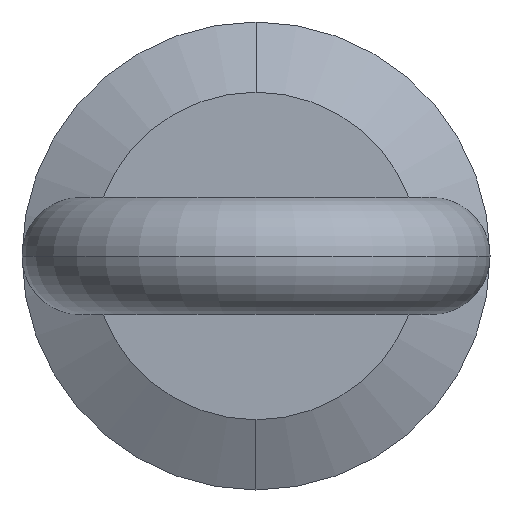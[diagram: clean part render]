
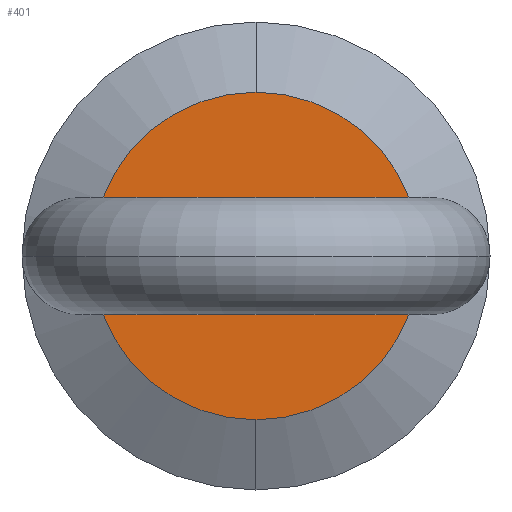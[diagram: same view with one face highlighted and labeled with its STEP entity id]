
A CAD part, front view. The second image highlights one B-rep face of the part: STEP entity #401.
In plain terms, the highlighted planar face has unit normal (0, -1, 0).
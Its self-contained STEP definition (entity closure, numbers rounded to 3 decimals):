
#259 = VERTEX_POINT( '', #608 );
#283 = EDGE_CURVE( '', #285, #259, #634, .T. );
#285 = VERTEX_POINT( '', #636 );
#319 = EDGE_CURVE( '', #457, #449, #671, .T. );
#323 = VERTEX_POINT( '', #675 );
#325 = EDGE_CURVE( '', #259, #285, #677, .T. );
#381 = EDGE_CURVE( '', #323, #455, #742, .T. );
#401 = ADVANCED_FACE( '', ( #764, #765, #766 ), #767, .T. );
#427 = EDGE_CURVE( '', #449, #457, #797, .T. );
#449 = VERTEX_POINT( '', #819 );
#455 = VERTEX_POINT( '', #825 );
#457 = VERTEX_POINT( '', #827 );
#499 = EDGE_CURVE( '', #455, #323, #873, .T. );
#608 = CARTESIAN_POINT( '', ( -3.605, -6., 2.5 ) );
#634 = CIRCLE( '', #1022, 2.5 );
#636 = CARTESIAN_POINT( '', ( -3.605, -6., -2.5 ) );
#671 = CIRCLE( '', #1075, 7. );
#675 = CARTESIAN_POINT( '', ( 3.605, -6., -2.5 ) );
#677 = CIRCLE( '', #1084, 2.5 );
#742 = CIRCLE( '', #1165, 2.5 );
#764 = FACE_BOUND( '', #1191, .T. );
#765 = FACE_OUTER_BOUND( '', #1192, .T. );
#766 = FACE_BOUND( '', #1193, .T. );
#767 = PLANE( '', #1194 );
#797 = CIRCLE( '', #1231, 7. );
#819 = CARTESIAN_POINT( '', ( 0., -6., -7. ) );
#825 = CARTESIAN_POINT( '', ( 3.605, -6., 2.5 ) );
#827 = CARTESIAN_POINT( '', ( 0., -6., 7. ) );
#873 = CIRCLE( '', #1330, 2.5 );
#1022 = AXIS2_PLACEMENT_3D( '', #1481, #1482, #1483 );
#1075 = AXIS2_PLACEMENT_3D( '', #1522, #1523, #1524 );
#1084 = AXIS2_PLACEMENT_3D( '', #1526, #1527, #1528 );
#1165 = AXIS2_PLACEMENT_3D( '', #1647, #1648, #1649 );
#1191 = EDGE_LOOP( '', ( #1681, #1682 ) );
#1192 = EDGE_LOOP( '', ( #1683, #1684 ) );
#1193 = EDGE_LOOP( '', ( #1685, #1686 ) );
#1194 = AXIS2_PLACEMENT_3D( '', #1687, #1688, #1689 );
#1231 = AXIS2_PLACEMENT_3D( '', #1731, #1732, #1733 );
#1330 = AXIS2_PLACEMENT_3D( '', #1814, #1815, #1816 );
#1481 = CARTESIAN_POINT( '', ( -3.605, -6., 0. ) );
#1482 = DIRECTION( '', ( 0., -1., 0. ) );
#1483 = DIRECTION( '', ( 0., 0., 1. ) );
#1522 = CARTESIAN_POINT( '', ( 0., -6., 0. ) );
#1523 = DIRECTION( '', ( 0., 1., 0. ) );
#1524 = DIRECTION( '', ( 0., 0., -1. ) );
#1526 = CARTESIAN_POINT( '', ( -3.605, -6., 0. ) );
#1527 = DIRECTION( '', ( 0., -1., 0. ) );
#1528 = DIRECTION( '', ( 0., 0., 1. ) );
#1647 = CARTESIAN_POINT( '', ( 3.605, -6., 0. ) );
#1648 = DIRECTION( '', ( 0., 1., 0. ) );
#1649 = DIRECTION( '', ( 0., 0., -1. ) );
#1681 = ORIENTED_EDGE( '', *, *, #499, .T. );
#1682 = ORIENTED_EDGE( '', *, *, #381, .T. );
#1683 = ORIENTED_EDGE( '', *, *, #427, .F. );
#1684 = ORIENTED_EDGE( '', *, *, #319, .F. );
#1685 = ORIENTED_EDGE( '', *, *, #283, .F. );
#1686 = ORIENTED_EDGE( '', *, *, #325, .F. );
#1687 = CARTESIAN_POINT( '', ( 0., -6., -3.5 ) );
#1688 = DIRECTION( '', ( 0., -1., 0. ) );
#1689 = DIRECTION( '', ( 0., 0., 1. ) );
#1731 = CARTESIAN_POINT( '', ( 0., -6., 0. ) );
#1732 = DIRECTION( '', ( 0., 1., 0. ) );
#1733 = DIRECTION( '', ( 0., 0., -1. ) );
#1814 = CARTESIAN_POINT( '', ( 3.605, -6., 0. ) );
#1815 = DIRECTION( '', ( 0., 1., 0. ) );
#1816 = DIRECTION( '', ( 0., 0., -1. ) );
